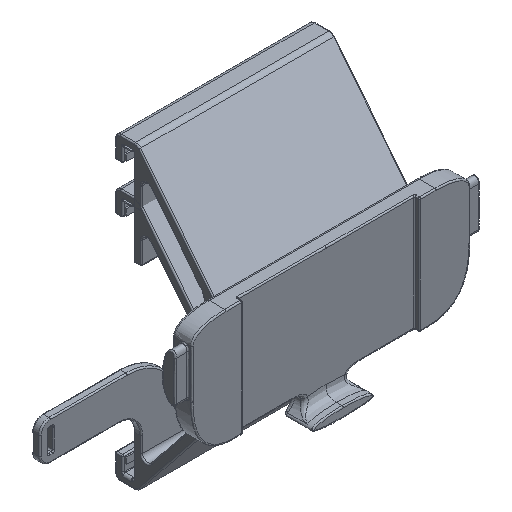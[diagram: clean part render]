
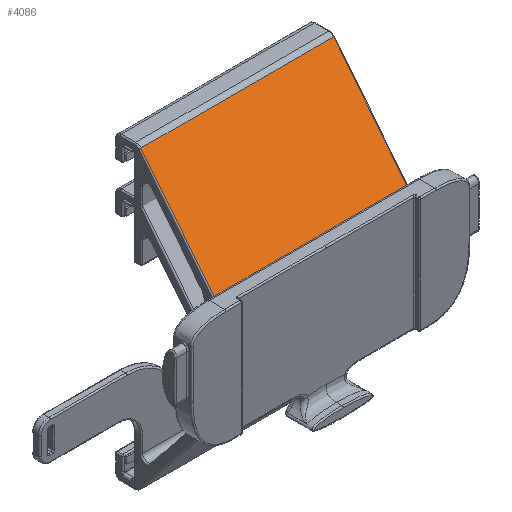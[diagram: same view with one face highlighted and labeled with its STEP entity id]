
A CAD part, isometric view. The second image highlights one B-rep face of the part: STEP entity #4086.
In plain terms, the highlighted planar face has unit normal (0, -0.781, 0.624).
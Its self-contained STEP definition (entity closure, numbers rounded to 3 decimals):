
#24 = CARTESIAN_POINT ( 'NONE',  ( 75., 2.765, 117.3 ) ) ;
#700 = ORIENTED_EDGE ( 'NONE', *, *, #9850, .T. ) ;
#951 = ORIENTED_EDGE ( 'NONE', *, *, #4588, .T. ) ;
#1322 = VERTEX_POINT ( 'NONE', #27599 ) ;
#1454 = LINE ( 'NONE', #20415, #28395 ) ;
#2091 = VECTOR ( 'NONE', #21477, 1000. ) ;
#4086 = ADVANCED_FACE ( 'NONE', ( #12327 ), #20068, .F. ) ;
#4588 = EDGE_CURVE ( 'NONE', #23504, #7831, #6922, .T. ) ;
#6207 = DIRECTION ( 'NONE',  ( -1., 0., 0. ) ) ;
#6922 = LINE ( 'NONE', #19412, #28652 ) ;
#7297 = VERTEX_POINT ( 'NONE', #12221 ) ;
#7831 = VERTEX_POINT ( 'NONE', #8975 ) ;
#7936 = ORIENTED_EDGE ( 'NONE', *, *, #31870, .F. ) ;
#8799 = CARTESIAN_POINT ( 'NONE',  ( -74., 2.765, 117.3 ) ) ;
#8975 = CARTESIAN_POINT ( 'NONE',  ( 74., 1.264, 115.421 ) ) ;
#9850 = EDGE_CURVE ( 'NONE', #7831, #7297, #1454, .T. ) ;
#12163 = DIRECTION ( 'NONE',  ( 0., 0.624, 0.781 ) ) ;
#12221 = CARTESIAN_POINT ( 'NONE',  ( -74., 1.264, 115.421 ) ) ;
#12327 = FACE_OUTER_BOUND ( 'NONE', #28445, .T. ) ;
#17097 = AXIS2_PLACEMENT_3D ( 'NONE', #24, #22707, #17631 ) ;
#17631 = DIRECTION ( 'NONE',  ( 0., -0.624, -0.781 ) ) ;
#17921 = LINE ( 'NONE', #30139, #20549 ) ;
#19412 = CARTESIAN_POINT ( 'NONE',  ( 74., 2.765, 117.3 ) ) ;
#20068 = PLANE ( 'NONE',  #17097 ) ;
#20415 = CARTESIAN_POINT ( 'NONE',  ( 75., 1.264, 115.421 ) ) ;
#20549 = VECTOR ( 'NONE', #30449, 1000. ) ;
#21477 = DIRECTION ( 'NONE',  ( 0., 0.624, 0.781 ) ) ;
#21855 = ORIENTED_EDGE ( 'NONE', *, *, #31791, .F. ) ;
#22707 = DIRECTION ( 'NONE',  ( 0., 0.781, -0.624 ) ) ;
#23504 = VERTEX_POINT ( 'NONE', #26610 ) ;
#26610 = CARTESIAN_POINT ( 'NONE',  ( 74., -55.8, 44. ) ) ;
#27599 = CARTESIAN_POINT ( 'NONE',  ( -74., -55.8, 44. ) ) ;
#28282 = LINE ( 'NONE', #8799, #2091 ) ;
#28395 = VECTOR ( 'NONE', #6207, 1000. ) ;
#28445 = EDGE_LOOP ( 'NONE', ( #21855, #951, #700, #7936 ) ) ;
#28652 = VECTOR ( 'NONE', #12163, 1000. ) ;
#30139 = CARTESIAN_POINT ( 'NONE',  ( 75., -55.8, 44. ) ) ;
#30449 = DIRECTION ( 'NONE',  ( -1., 0., 0. ) ) ;
#31791 = EDGE_CURVE ( 'NONE', #23504, #1322, #17921, .T. ) ;
#31870 = EDGE_CURVE ( 'NONE', #1322, #7297, #28282, .T. ) ;
